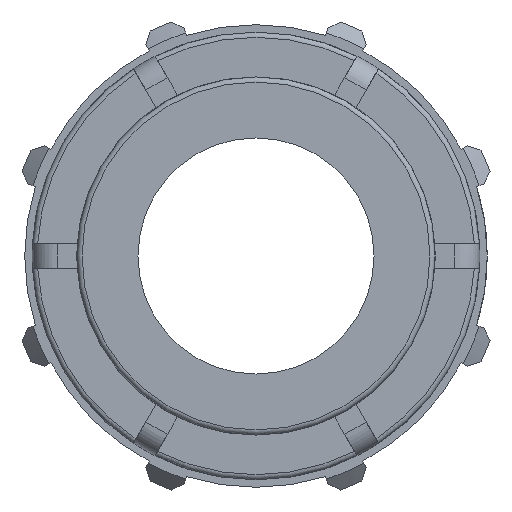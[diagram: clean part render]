
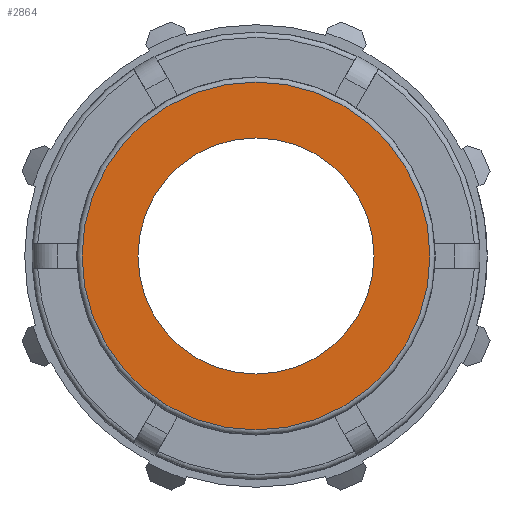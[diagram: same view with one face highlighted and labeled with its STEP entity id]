
A CAD part, left-side view. The second image highlights one B-rep face of the part: STEP entity #2864.
In plain terms, the highlighted planar face has unit normal (-1, 0, 0).
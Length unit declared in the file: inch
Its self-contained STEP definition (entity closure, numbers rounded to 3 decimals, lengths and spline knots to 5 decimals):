
#66=FACE_BOUND('',#814,.T.);
#549=PLANE('',#3106);
#659=FACE_OUTER_BOUND('',#813,.T.);
#813=EDGE_LOOP('',(#2161,#2162));
#814=EDGE_LOOP('',(#2163,#2164));
#973=CIRCLE('',#3103,1.12965);
#974=CIRCLE('',#3104,1.12965);
#976=CIRCLE('',#3107,0.76677);
#977=CIRCLE('',#3108,0.76677);
#1224=VERTEX_POINT('',#4875);
#1225=VERTEX_POINT('',#4877);
#1226=VERTEX_POINT('',#4882);
#1227=VERTEX_POINT('',#4883);
#1570=EDGE_CURVE('',#1224,#1225,#973,.T.);
#1571=EDGE_CURVE('',#1225,#1224,#974,.T.);
#1573=EDGE_CURVE('',#1226,#1227,#976,.T.);
#1574=EDGE_CURVE('',#1227,#1226,#977,.T.);
#2161=ORIENTED_EDGE('',*,*,#1571,.F.);
#2162=ORIENTED_EDGE('',*,*,#1570,.F.);
#2163=ORIENTED_EDGE('',*,*,#1573,.T.);
#2164=ORIENTED_EDGE('',*,*,#1574,.T.);
#2864=ADVANCED_FACE('',(#659,#66),#549,.T.);
#3103=AXIS2_PLACEMENT_3D('',#4878,#3631,#3632);
#3104=AXIS2_PLACEMENT_3D('',#4879,#3633,#3634);
#3106=AXIS2_PLACEMENT_3D('',#4881,#3637,#3638);
#3107=AXIS2_PLACEMENT_3D('',#4884,#3639,#3640);
#3108=AXIS2_PLACEMENT_3D('',#4885,#3641,#3642);
#3631=DIRECTION('center_axis',(1.,0.,0.));
#3632=DIRECTION('ref_axis',(0.,-1.,0.));
#3633=DIRECTION('center_axis',(1.,0.,0.));
#3634=DIRECTION('ref_axis',(0.,-1.,0.));
#3637=DIRECTION('center_axis',(-1.,0.,0.));
#3638=DIRECTION('ref_axis',(0.,0.,1.));
#3639=DIRECTION('center_axis',(1.,0.,0.));
#3640=DIRECTION('ref_axis',(0.,0.,-1.));
#3641=DIRECTION('center_axis',(1.,0.,0.));
#3642=DIRECTION('ref_axis',(0.,0.,-1.));
#4875=CARTESIAN_POINT('',(0.,0.,1.12965));
#4877=CARTESIAN_POINT('',(0.,1.12965,0.));
#4878=CARTESIAN_POINT('Origin',(0.,0.,0.));
#4879=CARTESIAN_POINT('Origin',(0.,0.,0.));
#4881=CARTESIAN_POINT('Origin',(0.,1.1628,0.));
#4882=CARTESIAN_POINT('',(0.,0.76677,0.));
#4883=CARTESIAN_POINT('',(0.,-0.76677,0.));
#4884=CARTESIAN_POINT('Origin',(0.,0.,0.));
#4885=CARTESIAN_POINT('Origin',(0.,0.,0.));
